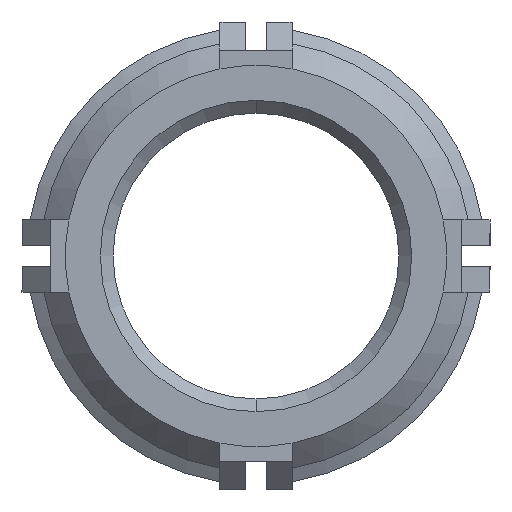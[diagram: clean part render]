
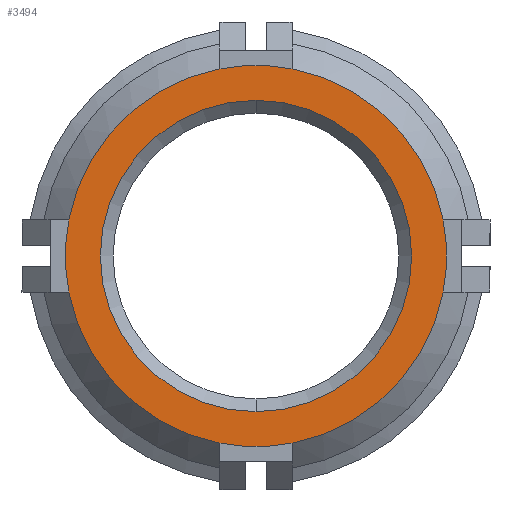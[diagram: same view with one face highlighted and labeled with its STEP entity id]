
A CAD part, front view. The second image highlights one B-rep face of the part: STEP entity #3494.
In plain terms, the highlighted planar face has unit normal (0, -1, 0).
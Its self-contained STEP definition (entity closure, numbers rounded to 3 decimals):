
#43 = EDGE_CURVE ( 'NONE', #5717, #4026, #5153, .T. ) ;
#55 = DIRECTION ( 'NONE',  ( 0., 0., 1. ) ) ;
#99 = VERTEX_POINT ( 'NONE', #2834 ) ;
#135 = AXIS2_PLACEMENT_3D ( 'NONE', #993, #1396, #4123 ) ;
#141 = EDGE_CURVE ( 'NONE', #3655, #1543, #3916, .T. ) ;
#154 = AXIS2_PLACEMENT_3D ( 'NONE', #1826, #1405, #2822 ) ;
#244 = DIRECTION ( 'NONE',  ( 0., -1., 0. ) ) ;
#422 = AXIS2_PLACEMENT_3D ( 'NONE', #3433, #244, #4223 ) ;
#433 = DIRECTION ( 'NONE',  ( 0., -1., 0. ) ) ;
#442 = DIRECTION ( 'NONE',  ( 0., 1., 0. ) ) ;
#448 = FACE_OUTER_BOUND ( 'NONE', #5379, .T. ) ;
#704 = DIRECTION ( 'NONE',  ( 1., 0., 0. ) ) ;
#721 = EDGE_CURVE ( 'NONE', #3207, #3655, #1023, .T. ) ;
#781 = CARTESIAN_POINT ( 'NONE',  ( -2., -22.098, -10.392 ) ) ;
#824 = AXIS2_PLACEMENT_3D ( 'NONE', #4444, #1361, #55 ) ;
#889 = CARTESIAN_POINT ( 'NONE',  ( -10.392, -22.098, 2. ) ) ;
#971 = DIRECTION ( 'NONE',  ( 0., 0., -1. ) ) ;
#993 = CARTESIAN_POINT ( 'NONE',  ( 0., -22.098, 0. ) ) ;
#1023 = CIRCLE ( 'NONE', #2594, 10.583 ) ;
#1251 = EDGE_CURVE ( 'NONE', #3033, #2134, #2781, .T. ) ;
#1259 = ORIENTED_EDGE ( 'NONE', *, *, #3784, .T. ) ;
#1283 = CIRCLE ( 'NONE', #3808, 10.583 ) ;
#1361 = DIRECTION ( 'NONE',  ( 0., 1., 0. ) ) ;
#1396 = DIRECTION ( 'NONE',  ( 0., 1., 0. ) ) ;
#1405 = DIRECTION ( 'NONE',  ( 0., -1., 0. ) ) ;
#1543 = VERTEX_POINT ( 'NONE', #889 ) ;
#1634 = AXIS2_PLACEMENT_3D ( 'NONE', #3889, #2023, #2086 ) ;
#1652 = FACE_BOUND ( 'NONE', #3159, .T. ) ;
#1799 = ORIENTED_EDGE ( 'NONE', *, *, #141, .T. ) ;
#1826 = CARTESIAN_POINT ( 'NONE',  ( 0., -22.098, 0. ) ) ;
#1965 = CARTESIAN_POINT ( 'NONE',  ( 0., -22.098, 0. ) ) ;
#1997 = DIRECTION ( 'NONE',  ( 0., -1., 0. ) ) ;
#2023 = DIRECTION ( 'NONE',  ( 0., -1., 0. ) ) ;
#2086 = DIRECTION ( 'NONE',  ( 0., 0., 1. ) ) ;
#2134 = VERTEX_POINT ( 'NONE', #5403 ) ;
#2153 = AXIS2_PLACEMENT_3D ( 'NONE', #4976, #442, #2733 ) ;
#2249 = ORIENTED_EDGE ( 'NONE', *, *, #721, .T. ) ;
#2289 = ORIENTED_EDGE ( 'NONE', *, *, #4782, .T. ) ;
#2413 = CIRCLE ( 'NONE', #2456, 10.583 ) ;
#2415 = DIRECTION ( 'NONE',  ( 0., -1., 0. ) ) ;
#2456 = AXIS2_PLACEMENT_3D ( 'NONE', #4510, #3651, #971 ) ;
#2551 = EDGE_CURVE ( 'NONE', #4026, #5717, #2694, .T. ) ;
#2594 = AXIS2_PLACEMENT_3D ( 'NONE', #5172, #1997, #704 ) ;
#2658 = DIRECTION ( 'NONE',  ( -1., 0., 0. ) ) ;
#2694 = CIRCLE ( 'NONE', #2153, 8.643 ) ;
#2733 = DIRECTION ( 'NONE',  ( 0., 0., 1. ) ) ;
#2781 = CIRCLE ( 'NONE', #154, 10.583 ) ;
#2822 = DIRECTION ( 'NONE',  ( 0., 0., 1. ) ) ;
#2834 = CARTESIAN_POINT ( 'NONE',  ( -10.392, -22.098, -2. ) ) ;
#2846 = VERTEX_POINT ( 'NONE', #781 ) ;
#2879 = ORIENTED_EDGE ( 'NONE', *, *, #2931, .T. ) ;
#2880 = CARTESIAN_POINT ( 'NONE',  ( 2., -22.098, 10.392 ) ) ;
#2882 = ORIENTED_EDGE ( 'NONE', *, *, #2551, .T. ) ;
#2910 = AXIS2_PLACEMENT_3D ( 'NONE', #3133, #433, #2658 ) ;
#2931 = EDGE_CURVE ( 'NONE', #2846, #3033, #4434, .T. ) ;
#3004 = DIRECTION ( 'NONE',  ( 0., -1., 0. ) ) ;
#3033 = VERTEX_POINT ( 'NONE', #5705 ) ;
#3109 = ORIENTED_EDGE ( 'NONE', *, *, #4111, .T. ) ;
#3123 = CIRCLE ( 'NONE', #1634, 10.583 ) ;
#3133 = CARTESIAN_POINT ( 'NONE',  ( 0., -22.098, 0. ) ) ;
#3159 = EDGE_LOOP ( 'NONE', ( #2882, #3177 ) ) ;
#3177 = ORIENTED_EDGE ( 'NONE', *, *, #43, .T. ) ;
#3207 = VERTEX_POINT ( 'NONE', #2880 ) ;
#3250 = CARTESIAN_POINT ( 'NONE',  ( 0., -22.098, -8.643 ) ) ;
#3433 = CARTESIAN_POINT ( 'NONE',  ( 0., -22.098, 0. ) ) ;
#3494 = ADVANCED_FACE ( 'NONE', ( #1652, #448 ), #4847, .F. ) ;
#3651 = DIRECTION ( 'NONE',  ( 0., -1., 0. ) ) ;
#3655 = VERTEX_POINT ( 'NONE', #3847 ) ;
#3714 = ORIENTED_EDGE ( 'NONE', *, *, #1251, .T. ) ;
#3736 = EDGE_CURVE ( 'NONE', #4196, #3207, #3955, .T. ) ;
#3784 = EDGE_CURVE ( 'NONE', #99, #2846, #3123, .T. ) ;
#3808 = AXIS2_PLACEMENT_3D ( 'NONE', #3893, #3004, #5235 ) ;
#3847 = CARTESIAN_POINT ( 'NONE',  ( -2., -22.098, 10.392 ) ) ;
#3889 = CARTESIAN_POINT ( 'NONE',  ( 0., -22.098, 0. ) ) ;
#3893 = CARTESIAN_POINT ( 'NONE',  ( 0., -22.098, 0. ) ) ;
#3916 = CIRCLE ( 'NONE', #5600, 10.583 ) ;
#3955 = CIRCLE ( 'NONE', #422, 10.583 ) ;
#4026 = VERTEX_POINT ( 'NONE', #3250 ) ;
#4111 = EDGE_CURVE ( 'NONE', #2134, #4196, #2413, .T. ) ;
#4123 = DIRECTION ( 'NONE',  ( 0., 0., 1. ) ) ;
#4196 = VERTEX_POINT ( 'NONE', #5130 ) ;
#4223 = DIRECTION ( 'NONE',  ( 0., 0., 1. ) ) ;
#4434 = CIRCLE ( 'NONE', #2910, 10.583 ) ;
#4444 = CARTESIAN_POINT ( 'NONE',  ( 0., -22.098, 0. ) ) ;
#4510 = CARTESIAN_POINT ( 'NONE',  ( 0., -22.098, 0. ) ) ;
#4782 = EDGE_CURVE ( 'NONE', #1543, #99, #1283, .T. ) ;
#4847 = PLANE ( 'NONE',  #135 ) ;
#4976 = CARTESIAN_POINT ( 'NONE',  ( 0., -22.098, 0. ) ) ;
#5130 = CARTESIAN_POINT ( 'NONE',  ( 10.392, -22.098, 2. ) ) ;
#5153 = CIRCLE ( 'NONE', #824, 8.643 ) ;
#5172 = CARTESIAN_POINT ( 'NONE',  ( 0., -22.098, 0. ) ) ;
#5235 = DIRECTION ( 'NONE',  ( 0., 0., 1. ) ) ;
#5300 = ORIENTED_EDGE ( 'NONE', *, *, #3736, .T. ) ;
#5379 = EDGE_LOOP ( 'NONE', ( #2289, #1259, #2879, #3714, #3109, #5300, #2249, #1799 ) ) ;
#5403 = CARTESIAN_POINT ( 'NONE',  ( 10.392, -22.098, -2. ) ) ;
#5517 = DIRECTION ( 'NONE',  ( 0., 0., 1. ) ) ;
#5600 = AXIS2_PLACEMENT_3D ( 'NONE', #1965, #2415, #5517 ) ;
#5646 = CARTESIAN_POINT ( 'NONE',  ( 0., -22.098, 8.643 ) ) ;
#5705 = CARTESIAN_POINT ( 'NONE',  ( 2., -22.098, -10.392 ) ) ;
#5717 = VERTEX_POINT ( 'NONE', #5646 ) ;
